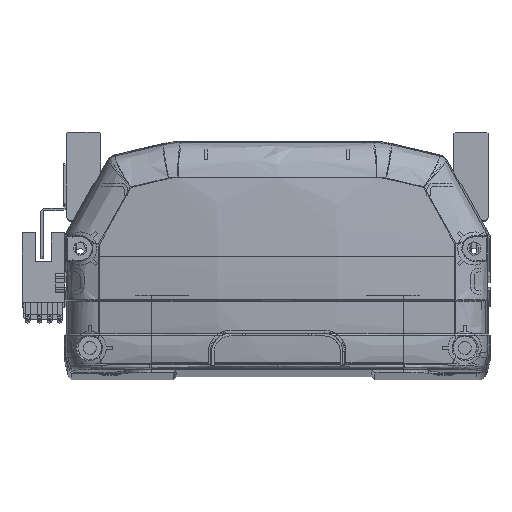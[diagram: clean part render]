
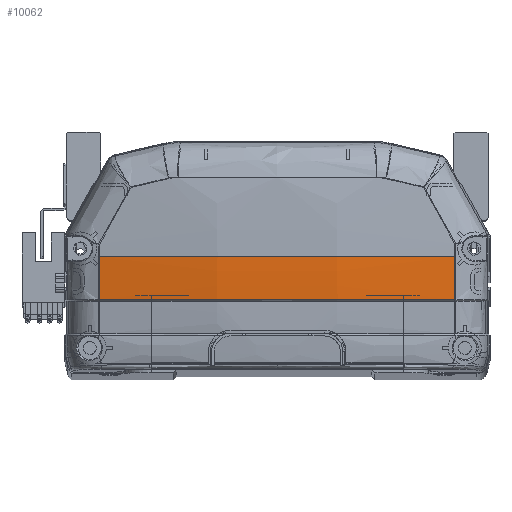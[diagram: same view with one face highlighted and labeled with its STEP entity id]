
A CAD part, top view. The second image highlights one B-rep face of the part: STEP entity #10062.
In plain terms, the highlighted free-form (B-spline) face has degree [3, 3] with [4, 4] control points.
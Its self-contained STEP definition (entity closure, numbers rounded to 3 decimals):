
#438 = CARTESIAN_POINT ( 'NONE',  ( 56.661, 22.225, -4.818 ) ) ;
#2350 = CARTESIAN_POINT ( 'NONE',  ( -19.295, 21.828, -11.186 ) ) ;
#2514 = CARTESIAN_POINT ( 'NONE',  ( 19.295, 31.274, -11.535 ) ) ;
#2672 = CARTESIAN_POINT ( 'NONE',  ( 57.335, 31.38, -5.042 ) ) ;
#3508 = CARTESIAN_POINT ( 'NONE',  ( -19.28, 22.225, -9.565 ) ) ;
#3762 = B_SPLINE_CURVE_WITH_KNOTS ( 'NONE', 3,
 ( #438, #18464, #33464, #11224, #11539, #29907, #40670, #22323, #36986, #26036, #3508, #14632, #29259 ),
 .UNSPECIFIED., .F., .F.,
 ( 4, 2, 2, 1, 2, 2, 4 ),
 ( 0., 0.25, 0.375, 0.438, 0.469, 0.5, 1. ),
 .UNSPECIFIED. ) ;
#3902 = AXIS2_PLACEMENT_3D ( 'NONE', #33545, #37220, #15183 ) ;
#4593 = CARTESIAN_POINT ( 'NONE',  ( -57.335, 22.148, -4.7 ) ) ;
#6590 = CARTESIAN_POINT ( 'NONE',  ( 0., 36., 330.833 ) ) ;
#7389 = CARTESIAN_POINT ( 'NONE',  ( -56.661, 22.225, -4.818 ) ) ;
#7947 = VERTEX_POINT ( 'NONE', #45679 ) ;
#8376 = CARTESIAN_POINT ( 'NONE',  ( 56.661, 22.225, -4.818 ) ) ;
#9574 = ORIENTED_EDGE ( 'NONE', *, *, #30025, .F. ) ;
#9597 = CARTESIAN_POINT ( 'NONE',  ( 57.335, 22.148, -4.7 ) ) ;
#9777 = CARTESIAN_POINT ( 'NONE',  ( 56.661, 22.225, -4.818 ) ) ;
#10062 = ADVANCED_FACE ( 'NONE', ( #34818 ), #32390, .T. ) ;
#10107 = CARTESIAN_POINT ( 'NONE',  ( -57.335, 36., -5.042 ) ) ;
#10663 = ORIENTED_EDGE ( 'NONE', *, *, #11189, .F. ) ;
#11189 = EDGE_CURVE ( 'NONE', #36817, #37341, #46520, .T. ) ;
#11224 = CARTESIAN_POINT ( 'NONE',  ( 23.877, 22.225, -8.763 ) ) ;
#11539 = CARTESIAN_POINT ( 'NONE',  ( 19.121, 22.225, -9.064 ) ) ;
#12548 = EDGE_LOOP ( 'NONE', ( #32259, #18210, #10663, #40185, #9574 ) ) ;
#13077 = CARTESIAN_POINT ( 'NONE',  ( -57.335, 26.762, -4.928 ) ) ;
#13301 = CARTESIAN_POINT ( 'NONE',  ( 19.295, 26.549, -11.419 ) ) ;
#13622 = CARTESIAN_POINT ( 'NONE',  ( 19.295, 36., -11.535 ) ) ;
#14632 = CARTESIAN_POINT ( 'NONE',  ( -38.235, 22.225, -7.93 ) ) ;
#15183 = DIRECTION ( 'NONE',  ( -1., 0., 0. ) ) ;
#15349 = VERTEX_POINT ( 'NONE', #16145 ) ;
#16145 = CARTESIAN_POINT ( 'NONE',  ( 56.647, 36., -5.158 ) ) ;
#16678 = CARTESIAN_POINT ( 'NONE',  ( 19.295, 21.828, -11.186 ) ) ;
#16865 = CIRCLE ( 'NONE', #3902, 6395.966 ) ;
#17756 = EDGE_CURVE ( 'NONE', #37341, #15349, #16865, .T. ) ;
#18210 = ORIENTED_EDGE ( 'NONE', *, *, #17756, .F. ) ;
#18464 = CARTESIAN_POINT ( 'NONE',  ( 47.432, 22.225, -6.377 ) ) ;
#19465 = CARTESIAN_POINT ( 'NONE',  ( -57.335, 31.38, -5.042 ) ) ;
#20365 = CARTESIAN_POINT ( 'NONE',  ( -19.295, 26.549, -11.419 ) ) ;
#20569 = DIRECTION ( 'NONE',  ( 0., 0., -1. ) ) ;
#22323 = CARTESIAN_POINT ( 'NONE',  ( 4.761, 22.225, -9.537 ) ) ;
#24048 = CARTESIAN_POINT ( 'NONE',  ( -56.647, 31.405, -5.158 ) ) ;
#24066 = CARTESIAN_POINT ( 'NONE',  ( -19.295, 31.274, -11.535 ) ) ;
#24368 = CARTESIAN_POINT ( 'NONE',  ( -56.652, 26.814, -5.045 ) ) ;
#24870 = CARTESIAN_POINT ( 'NONE',  ( 56.647, 35.969, -5.158 ) ) ;
#26036 = CARTESIAN_POINT ( 'NONE',  ( 1.152, 22.225, -9.568 ) ) ;
#28649 = VERTEX_POINT ( 'NONE', #7389 ) ;
#29046 = CARTESIAN_POINT ( 'NONE',  ( 56.647, 35.969, -5.158 ) ) ;
#29259 = CARTESIAN_POINT ( 'NONE',  ( -56.661, 22.225, -4.818 ) ) ;
#29907 = CARTESIAN_POINT ( 'NONE',  ( 11.954, 22.225, -9.367 ) ) ;
#30025 = EDGE_CURVE ( 'NONE', #7947, #28649, #36029, .T. ) ;
#32259 = ORIENTED_EDGE ( 'NONE', *, *, #43274, .F. ) ;
#32334 = DIRECTION ( 'NONE',  ( 0., 1., 0. ) ) ;
#32390 =( BOUNDED_SURFACE ( )  B_SPLINE_SURFACE ( 3, 3, ( 
 ( #9597, #46408, #2672, #35347 ),
 ( #16678, #13301, #2514, #13622 ),
 ( #2350, #20365, #24066, #37089 ),
 ( #4593, #13077, #19465, #10107 ) ),
 .UNSPECIFIED., .F., .F., .F. ) 
 B_SPLINE_SURFACE_WITH_KNOTS ( ( 4, 4 ),
 ( 4, 4 ),
 ( 0., 1. ),
 ( 0., 1. ),
 .UNSPECIFIED. ) 
 GEOMETRIC_REPRESENTATION_ITEM ( )  RATIONAL_B_SPLINE_SURFACE ( (
 ( 1., 1., 1., 1.),
 ( 0.99, 0.99, 0.99, 0.99),
 ( 0.99, 0.99, 0.99, 0.99),
 ( 1., 1., 1., 1.) ) ) 
 REPRESENTATION_ITEM ( '' )  SURFACE ( )  );
#33464 = CARTESIAN_POINT ( 'NONE',  ( 38.071, 22.225, -7.566 ) ) ;
#33545 = CARTESIAN_POINT ( 'NONE',  ( 6452.613, 35.969, -5.158 ) ) ;
#34818 = FACE_OUTER_BOUND ( 'NONE', #12548, .T. ) ;
#35329 = CARTESIAN_POINT ( 'NONE',  ( -56.661, 22.225, -4.818 ) ) ;
#35347 = CARTESIAN_POINT ( 'NONE',  ( 57.335, 36., -5.042 ) ) ;
#35682 = CARTESIAN_POINT ( 'NONE',  ( 56.652, 26.806, -5.044 ) ) ;
#36029 = B_SPLINE_CURVE_WITH_KNOTS ( 'NONE', 3,
 ( #39359, #24048, #24368, #35329 ),
 .UNSPECIFIED., .F., .F.,
 ( 4, 4 ),
 ( 0., 1. ),
 .UNSPECIFIED. ) ;
#36817 = VERTEX_POINT ( 'NONE', #8376 ) ;
#36986 = CARTESIAN_POINT ( 'NONE',  ( 2.357, 22.225, -9.562 ) ) ;
#37089 = CARTESIAN_POINT ( 'NONE',  ( -19.295, 36., -11.535 ) ) ;
#37220 = DIRECTION ( 'NONE',  ( 0., 0., -1. ) ) ;
#37341 = VERTEX_POINT ( 'NONE', #24870 ) ;
#38656 = AXIS2_PLACEMENT_3D ( 'NONE', #6590, #32334, #20569 ) ;
#39359 = CARTESIAN_POINT ( 'NONE',  ( -56.647, 36., -5.158 ) ) ;
#39379 = CARTESIAN_POINT ( 'NONE',  ( 56.647, 31.387, -5.158 ) ) ;
#39700 = EDGE_CURVE ( 'NONE', #36817, #28649, #3762, .T. ) ;
#40185 = ORIENTED_EDGE ( 'NONE', *, *, #39700, .T. ) ;
#40670 = CARTESIAN_POINT ( 'NONE',  ( 8.363, 22.225, -9.48 ) ) ;
#43274 = EDGE_CURVE ( 'NONE', #15349, #7947, #45434, .T. ) ;
#45434 = CIRCLE ( 'NONE', #38656, 340.733 ) ;
#45679 = CARTESIAN_POINT ( 'NONE',  ( -56.647, 36., -5.158 ) ) ;
#46408 = CARTESIAN_POINT ( 'NONE',  ( 57.335, 26.762, -4.928 ) ) ;
#46520 = B_SPLINE_CURVE_WITH_KNOTS ( 'NONE', 3,
 ( #9777, #35682, #39379, #29046 ),
 .UNSPECIFIED., .F., .F.,
 ( 4, 4 ),
 ( 0., 1. ),
 .UNSPECIFIED. ) ;
